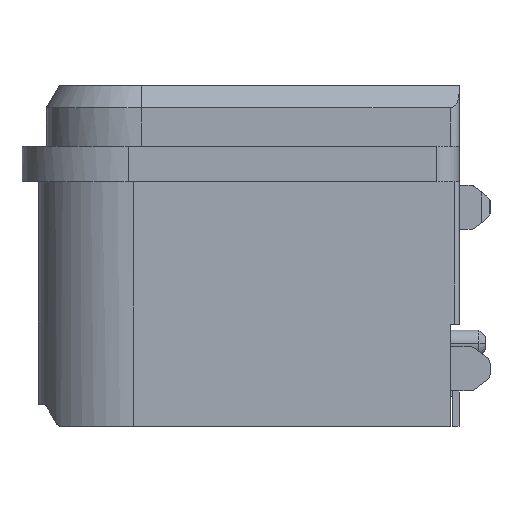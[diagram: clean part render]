
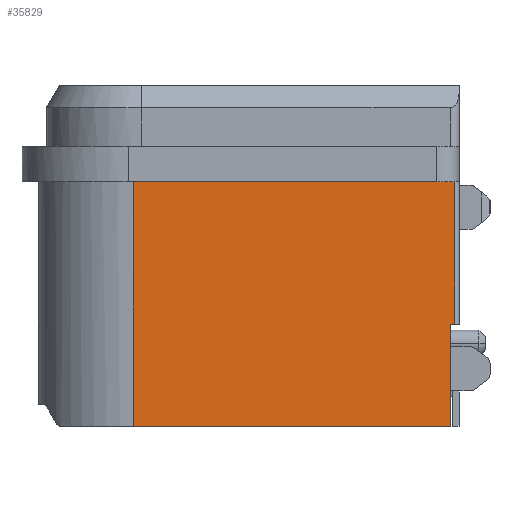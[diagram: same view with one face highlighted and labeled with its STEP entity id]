
A CAD part, left-side view. The second image highlights one B-rep face of the part: STEP entity #35829.
In plain terms, the highlighted planar face has unit normal (-1, 0, 0).
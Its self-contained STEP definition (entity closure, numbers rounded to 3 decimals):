
#1018 = CARTESIAN_POINT ( 'NONE',  ( -5.835, -3.68, -5.59 ) ) ;
#1636 = EDGE_CURVE ( 'NONE', #31035, #49353, #38492, .T. ) ;
#4582 = ORIENTED_EDGE ( 'NONE', *, *, #31229, .T. ) ;
#5041 = VECTOR ( 'NONE', #44768, 1000. ) ;
#5551 = LINE ( 'NONE', #25957, #35987 ) ;
#6181 = DIRECTION ( 'NONE',  ( 0., 1., 0. ) ) ;
#6637 = LINE ( 'NONE', #38132, #17192 ) ;
#6815 = VECTOR ( 'NONE', #10768, 1000. ) ;
#6927 = ORIENTED_EDGE ( 'NONE', *, *, #8899, .T. ) ;
#7523 = CARTESIAN_POINT ( 'NONE',  ( -5.835, 0.5, -7.9 ) ) ;
#8128 = CARTESIAN_POINT ( 'NONE',  ( -5.835, 3.58, -7.9 ) ) ;
#8899 = EDGE_CURVE ( 'NONE', #32653, #38662, #36740, .T. ) ;
#9214 = CARTESIAN_POINT ( 'NONE',  ( -5.835, -3.68, -2.37 ) ) ;
#10363 = DIRECTION ( 'NONE',  ( 0., 0., 1. ) ) ;
#10768 = DIRECTION ( 'NONE',  ( 0., 0., 1. ) ) ;
#10806 = CARTESIAN_POINT ( 'NONE',  ( -5.835, -3.58, -7.9 ) ) ;
#11528 = DIRECTION ( 'NONE',  ( 0., -1., 0. ) ) ;
#12532 = CARTESIAN_POINT ( 'NONE',  ( -5.835, 3.4, -5.59 ) ) ;
#13494 = DIRECTION ( 'NONE',  ( -1., 0., 0. ) ) ;
#13976 = VECTOR ( 'NONE', #32347, 1000. ) ;
#15248 = ORIENTED_EDGE ( 'NONE', *, *, #29551, .T. ) ;
#16280 = ORIENTED_EDGE ( 'NONE', *, *, #39131, .T. ) ;
#17088 = ORIENTED_EDGE ( 'NONE', *, *, #1636, .T. ) ;
#17192 = VECTOR ( 'NONE', #10363, 1000. ) ;
#18241 = AXIS2_PLACEMENT_3D ( 'NONE', #33261, #13494, #41239 ) ;
#21601 = FACE_OUTER_BOUND ( 'NONE', #22851, .T. ) ;
#21994 = LINE ( 'NONE', #7523, #41873 ) ;
#22851 = EDGE_LOOP ( 'NONE', ( #6927, #16280, #17088, #4582, #15248, #25730 ) ) ;
#25730 = ORIENTED_EDGE ( 'NONE', *, *, #27853, .T. ) ;
#25957 = CARTESIAN_POINT ( 'NONE',  ( -5.835, 3.4, -2.37 ) ) ;
#27853 = EDGE_CURVE ( 'NONE', #41507, #32653, #5551, .T. ) ;
#29551 = EDGE_CURVE ( 'NONE', #36345, #41507, #6637, .T. ) ;
#31035 = VERTEX_POINT ( 'NONE', #46766 ) ;
#31229 = EDGE_CURVE ( 'NONE', #49353, #36345, #31330, .T. ) ;
#31330 = LINE ( 'NONE', #12532, #13976 ) ;
#32347 = DIRECTION ( 'NONE',  ( 0., -1., 0. ) ) ;
#32653 = VERTEX_POINT ( 'NONE', #43721 ) ;
#33261 = CARTESIAN_POINT ( 'NONE',  ( -5.835, 3.4, -7.9 ) ) ;
#35829 = ADVANCED_FACE ( 'NONE', ( #21601 ), #49065, .T. ) ;
#35987 = VECTOR ( 'NONE', #6181, 1000. ) ;
#36345 = VERTEX_POINT ( 'NONE', #1018 ) ;
#36740 = LINE ( 'NONE', #44823, #5041 ) ;
#38132 = CARTESIAN_POINT ( 'NONE',  ( -5.835, -3.68, -7.9 ) ) ;
#38492 = LINE ( 'NONE', #10806, #6815 ) ;
#38662 = VERTEX_POINT ( 'NONE', #8128 ) ;
#38851 = CARTESIAN_POINT ( 'NONE',  ( -5.835, -3.58, -5.59 ) ) ;
#39131 = EDGE_CURVE ( 'NONE', #38662, #31035, #21994, .T. ) ;
#41239 = DIRECTION ( 'NONE',  ( 0., 0., 1. ) ) ;
#41507 = VERTEX_POINT ( 'NONE', #9214 ) ;
#41873 = VECTOR ( 'NONE', #11528, 1000. ) ;
#43721 = CARTESIAN_POINT ( 'NONE',  ( -5.835, 3.58, -2.37 ) ) ;
#44768 = DIRECTION ( 'NONE',  ( 0., 0., -1. ) ) ;
#44823 = CARTESIAN_POINT ( 'NONE',  ( -5.835, 3.58, -7.9 ) ) ;
#46766 = CARTESIAN_POINT ( 'NONE',  ( -5.835, -3.58, -7.9 ) ) ;
#49065 = PLANE ( 'NONE',  #18241 ) ;
#49353 = VERTEX_POINT ( 'NONE', #38851 ) ;
